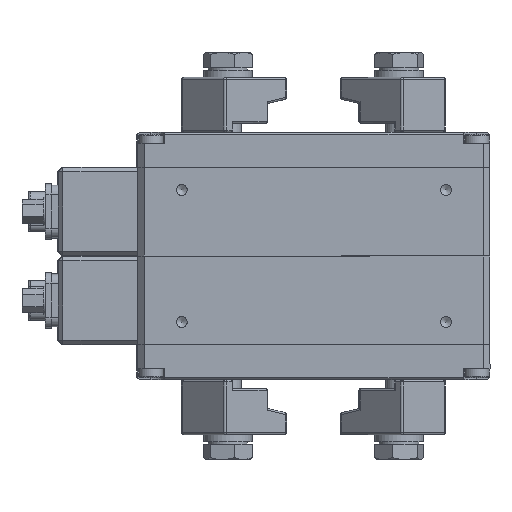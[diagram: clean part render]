
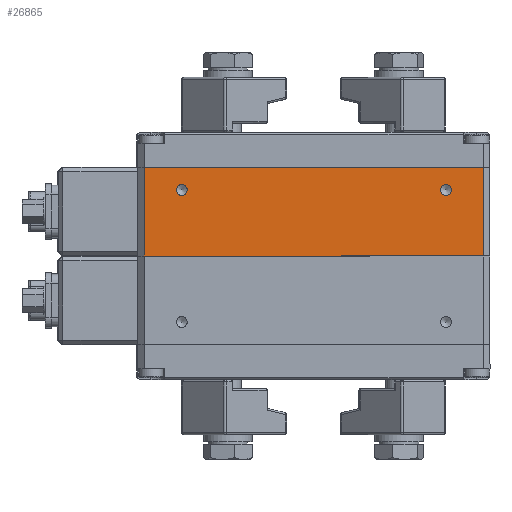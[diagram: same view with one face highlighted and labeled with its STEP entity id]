
A CAD part, front view. The second image highlights one B-rep face of the part: STEP entity #26865.
In plain terms, the highlighted planar face has unit normal (0.003, -1, 0) as drawn and (-1, 0, 0) by its records, which use the part's own axes.
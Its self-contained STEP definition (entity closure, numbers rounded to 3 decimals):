
#1624=FACE_BOUND('',#4326,.T.);
#1625=FACE_BOUND('',#4327,.T.);
#1885=PLANE('',#28989);
#2758=FACE_OUTER_BOUND('',#4325,.T.);
#4325=EDGE_LOOP('',(#19080,#19081,#19082,#19083));
#4326=EDGE_LOOP('',(#19084,#19085));
#4327=EDGE_LOOP('',(#19086,#19087));
#6100=LINE('',#38723,#8569);
#6145=LINE('',#38894,#8614);
#6149=LINE('',#38899,#8618);
#6150=LINE('',#38901,#8619);
#8569=VECTOR('',#31593,10.);
#8614=VECTOR('',#31778,10.);
#8618=VECTOR('',#31784,10.);
#8619=VECTOR('',#31787,10.);
#10977=CIRCLE('',#28864,1.23);
#10978=CIRCLE('',#28865,1.23);
#10981=CIRCLE('',#28870,1.23);
#10982=CIRCLE('',#28871,1.23);
#12002=VERTEX_POINT('',#38573);
#12003=VERTEX_POINT('',#38574);
#12007=VERTEX_POINT('',#38586);
#12008=VERTEX_POINT('',#38587);
#12054=VERTEX_POINT('',#38720);
#12055=VERTEX_POINT('',#38722);
#12110=VERTEX_POINT('',#38891);
#12111=VERTEX_POINT('',#38893);
#14680=EDGE_CURVE('',#12002,#12003,#10977,.T.);
#14681=EDGE_CURVE('',#12003,#12002,#10978,.T.);
#14686=EDGE_CURVE('',#12007,#12008,#10981,.T.);
#14687=EDGE_CURVE('',#12008,#12007,#10982,.T.);
#14752=EDGE_CURVE('',#12054,#12055,#6100,.T.);
#14835=EDGE_CURVE('',#12111,#12110,#6145,.T.);
#14839=EDGE_CURVE('',#12055,#12110,#6149,.T.);
#14840=EDGE_CURVE('',#12111,#12054,#6150,.T.);
#19080=ORIENTED_EDGE('',*,*,#14839,.F.);
#19081=ORIENTED_EDGE('',*,*,#14752,.F.);
#19082=ORIENTED_EDGE('',*,*,#14840,.F.);
#19083=ORIENTED_EDGE('',*,*,#14835,.T.);
#19084=ORIENTED_EDGE('',*,*,#14680,.T.);
#19085=ORIENTED_EDGE('',*,*,#14681,.T.);
#19086=ORIENTED_EDGE('',*,*,#14686,.T.);
#19087=ORIENTED_EDGE('',*,*,#14687,.T.);
#26865=ADVANCED_FACE('',(#2758,#1624,#1625),#1885,.T.);
#28864=AXIS2_PLACEMENT_3D('',#38575,#31443,#31444);
#28865=AXIS2_PLACEMENT_3D('',#38576,#31445,#31446);
#28870=AXIS2_PLACEMENT_3D('',#38588,#31457,#31458);
#28871=AXIS2_PLACEMENT_3D('',#38589,#31459,#31460);
#28989=AXIS2_PLACEMENT_3D('',#38900,#31785,#31786);
#31443=DIRECTION('center_axis',(1.,0.,0.));
#31444=DIRECTION('ref_axis',(0.,0.,1.));
#31445=DIRECTION('center_axis',(1.,0.,0.));
#31446=DIRECTION('ref_axis',(0.,0.,1.));
#31457=DIRECTION('center_axis',(1.,0.,0.));
#31458=DIRECTION('ref_axis',(0.,0.,1.));
#31459=DIRECTION('center_axis',(1.,0.,0.));
#31460=DIRECTION('ref_axis',(0.,0.,1.));
#31593=DIRECTION('',(0.,1.,0.));
#31778=DIRECTION('',(0.,1.,0.));
#31784=DIRECTION('',(0.,0.,1.));
#31785=DIRECTION('center_axis',(-1.,0.,0.));
#31786=DIRECTION('ref_axis',(0.,0.,1.));
#31787=DIRECTION('',(0.,0.,-1.));
#38573=CARTESIAN_POINT('',(-80.,10.,16.23));
#38574=CARTESIAN_POINT('',(-80.,10.,13.771));
#38575=CARTESIAN_POINT('Origin',(-80.,10.,15.));
#38576=CARTESIAN_POINT('Origin',(-80.,10.,15.));
#38586=CARTESIAN_POINT('',(-80.,70.,16.23));
#38587=CARTESIAN_POINT('',(-80.,70.,13.771));
#38588=CARTESIAN_POINT('Origin',(-80.,70.,15.));
#38589=CARTESIAN_POINT('Origin',(-80.,70.,15.));
#38720=CARTESIAN_POINT('',(-80.,1.5,0.));
#38722=CARTESIAN_POINT('',(-80.,78.5,0.));
#38723=CARTESIAN_POINT('',(-80.,0.,0.));
#38891=CARTESIAN_POINT('',(-80.,78.5,20.1));
#38893=CARTESIAN_POINT('',(-80.,1.5,20.1));
#38894=CARTESIAN_POINT('',(-80.,80.,20.1));
#38899=CARTESIAN_POINT('',(-80.,78.5,0.));
#38900=CARTESIAN_POINT('Origin',(-80.,0.,0.));
#38901=CARTESIAN_POINT('',(-80.,1.5,0.));
